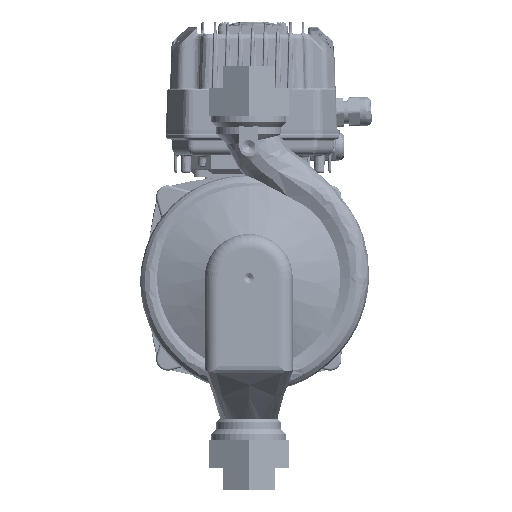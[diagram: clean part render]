
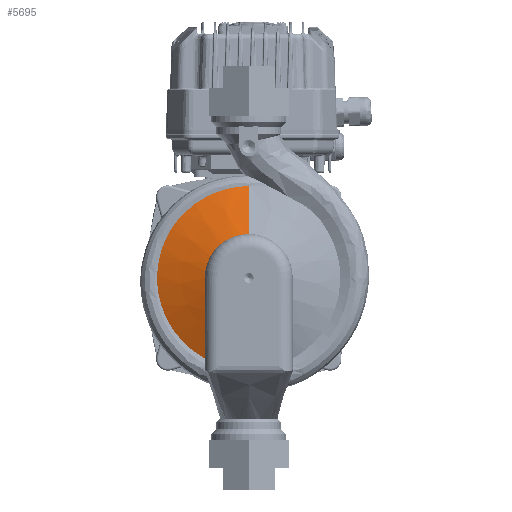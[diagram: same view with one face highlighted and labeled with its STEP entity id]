
A CAD part, front view. The second image highlights one B-rep face of the part: STEP entity #5695.
In plain terms, the highlighted conical face has half-angle 69.044 degrees and reference radius 61.5 mm.
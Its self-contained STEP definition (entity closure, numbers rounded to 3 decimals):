
#5695=ADVANCED_FACE('',(#14999),#15000,.T.);
#6087=EDGE_CURVE('',#15603,#15604,#15605,.T.);
#6089=EDGE_CURVE('',#15607,#15603,#15608,.T.);
#6091=EDGE_CURVE('',#15607,#15610,#15611,.T.);
#6093=EDGE_CURVE('',#15610,#15613,#15614,.T.);
#14999=FACE_OUTER_BOUND('',#30793,.T.);
#15000=CONICAL_SURFACE('',#30794,61.5,1.205);
#15603=VERTEX_POINT('',#33701);
#15604=VERTEX_POINT('',#33702);
#15605=B_SPLINE_CURVE_WITH_KNOTS('',3,(#33703,#33704,#33705,#33706,#33707,#33708,#33709,#33710,#33711,#33712),.UNSPECIFIED.,.F.,.F.,(4,2,2,2,4),(-319.433,-307.16,-294.533,-288.989,-287.256),.UNSPECIFIED.);
#15607=VERTEX_POINT('',#33715);
#15608=B_SPLINE_CURVE_WITH_KNOTS('',3,(#33716,#33717,#33718,#33719,#33720,#33721,#33722,#33723,#33724,#33725,#33726,#33727,#33728,#33729,#33730,#33731,#33732,#33733),.UNSPECIFIED.,.F.,.F.,(4,2,2,2,2,2,2,2,4),(-132.747,-132.096,-113.414,-101.835,-77.749,-64.625,-40.239,-26.23,0.0),.UNSPECIFIED.);
#15610=VERTEX_POINT('',#33736);
#15611=(B_SPLINE_CURVE(2,(#33738,#33739,#33740),.UNSPECIFIED.,.F.,.F.)B_SPLINE_CURVE_WITH_KNOTS((3,3),(1.449,73.91),.UNSPECIFIED.)RATIONAL_B_SPLINE_CURVE((1.01,1.248,1.0))BOUNDED_CURVE()REPRESENTATION_ITEM('')GEOMETRIC_REPRESENTATION_ITEM()CURVE());
#15613=VERTEX_POINT('',#33749);
#15614=CIRCLE('',#33750,38.0);
#30793=EDGE_LOOP('',(#103744,#103745,#103746,#103747,#103748));
#30794=AXIS2_PLACEMENT_3D('',#103749,#103750,#103751);
#33701=CARTESIAN_POINT('',(56.39,55.451,-16.265));
#33702=CARTESIAN_POINT('',(0.,79.539,-16.092));
#33703=CARTESIAN_POINT('',(56.39,55.451,-16.265));
#33704=CARTESIAN_POINT('',(49.138,62.817,-16.267));
#33705=CARTESIAN_POINT('',(41.33,68.073,-16.22));
#33706=CARTESIAN_POINT('',(26.068,75.205,-16.246));
#33707=CARTESIAN_POINT('',(15.573,78.555,-16.312));
#33708=CARTESIAN_POINT('',(-3.613,79.792,-16.046));
#33709=CARTESIAN_POINT('',(-8.437,79.615,-15.928));
#33710=CARTESIAN_POINT('',(-13.606,79.442,-15.689));
#33711=CARTESIAN_POINT('',(-15.463,79.362,-15.588));
#33712=CARTESIAN_POINT('',(-16.97,79.408,-15.455));
#33715=CARTESIAN_POINT('',(38.0,-69.433,-16.24));
#33716=CARTESIAN_POINT('',(38.0,-69.433,-16.24));
#33717=CARTESIAN_POINT('',(38.227,-69.309,-16.24));
#33718=CARTESIAN_POINT('',(38.453,-69.185,-16.24));
#33719=CARTESIAN_POINT('',(45.144,-65.445,-16.237));
#33720=CARTESIAN_POINT('',(51.106,-60.794,-16.266));
#33721=CARTESIAN_POINT('',(59.442,-52.366,-16.264));
#33722=CARTESIAN_POINT('',(62.385,-48.861,-16.255));
#33723=CARTESIAN_POINT('',(70.404,-37.434,-16.23));
#33724=CARTESIAN_POINT('',(74.063,-29.136,-16.265));
#33725=CARTESIAN_POINT('',(77.642,-15.814,-16.265));
#33726=CARTESIAN_POINT('',(78.499,-10.973,-16.255));
#33727=CARTESIAN_POINT('',(79.639,2.872,-16.23));
#33728=CARTESIAN_POINT('',(78.714,11.524,-16.263));
#33729=CARTESIAN_POINT('',(75.327,24.586,-16.266));
#33730=CARTESIAN_POINT('',(73.659,29.272,-16.256));
#33731=CARTESIAN_POINT('',(67.697,42.081,-16.23));
#33732=CARTESIAN_POINT('',(62.523,49.22,-16.263));
#33733=CARTESIAN_POINT('',(56.39,55.451,-16.265));
#33736=CARTESIAN_POINT('',(38.,0.0,-32.0));
#33738=CARTESIAN_POINT('',(38.0,-69.433,-16.24));
#33739=CARTESIAN_POINT('',(38.,-22.522,-32.));
#33740=CARTESIAN_POINT('',(38.,0.0,-32.0));
#33749=CARTESIAN_POINT('',(0.,38.0,-32.0));
#33750=AXIS2_PLACEMENT_3D('',#105360,#105361,#105362);
#103744=ORIENTED_EDGE('',*,*,#149793,.F.);
#103745=ORIENTED_EDGE('',*,*,#6087,.F.);
#103746=ORIENTED_EDGE('',*,*,#6089,.F.);
#103747=ORIENTED_EDGE('',*,*,#6091,.T.);
#103748=ORIENTED_EDGE('',*,*,#6093,.T.);
#103749=CARTESIAN_POINT('',(0.0,0.0,-23.0));
#103750=DIRECTION('',(-0.0,0.0,1.0));
#103751=DIRECTION('',(0.0,-1.0,0.0));
#105360=CARTESIAN_POINT('',(0.0,0.0,-32.0));
#105361=DIRECTION('',(0.0,0.0,1.0));
#105362=DIRECTION('',(0.0,-1.0,0.0));
#149793=EDGE_CURVE('',#15604,#15613,#181834,.T.);
#181834=LINE('',#207274,#207275);
#207274=CARTESIAN_POINT('',(0.,61.5,-23.0));
#207275=VECTOR('',#294685,1.0);
#294685=DIRECTION('',(0.,-0.934,-0.358));
